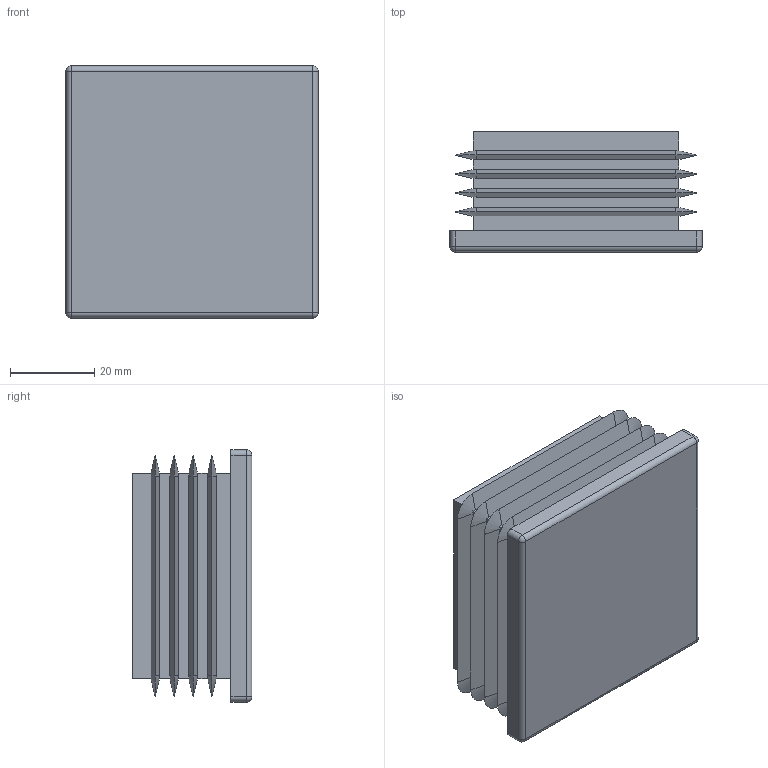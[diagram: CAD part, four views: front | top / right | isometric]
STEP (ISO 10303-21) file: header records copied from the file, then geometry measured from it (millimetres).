
FILE_DESCRIPTION(/* description */ ('END CAP FOR TUBE 500-1015'),/* implementation_level */ '2;1');
FILE_NAME(/* name */ '500-2040.stp',/* time_stamp */ '2022-09-16T10:15:59+02:00',/* author */ ('MD'),/* organization */ ('CARRYLINE'),/* preprocessor_version */ 'ST-DEVELOPER v19.2',/* originating_system */ 'Autodesk Inventor 2023',/* authorisation */ '');
FILE_SCHEMA (('AUTOMOTIVE_DESIGN { 1 0 10303 214 3 1 1 }'));
Length unit declared in the file: millimetre
Products named in the file (1): 500-2040
Bounding box: 60 x 28.5 x 60 mm (x, y, z)
Volume: 28069.3 mm3; surface area: 22884.9 mm2
Topology: 1 solids, 1 shells, 108 faces, 272 edges, 164 vertices
Faces by surface type: plane 64, cone 32, cylinder 8, sphere 4
Entity records: 3123 total; most frequent: CARTESIAN_POINT 701, ORIENTED_EDGE 536, DIRECTION 454, EDGE_CURVE 268, LINE 172, VECTOR 172, VERTEX_POINT 164, AXIS2_PLACEMENT_3D 141
